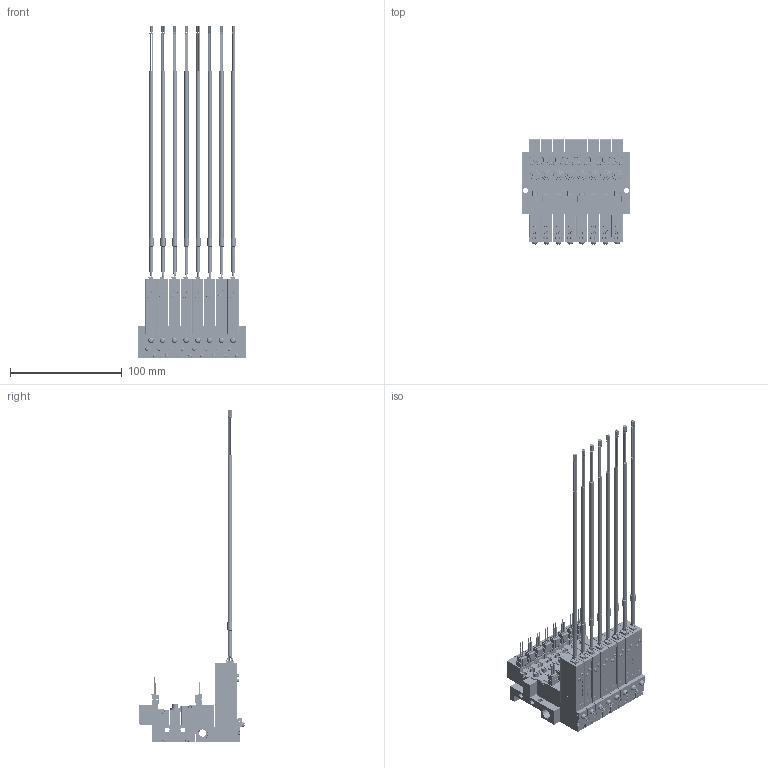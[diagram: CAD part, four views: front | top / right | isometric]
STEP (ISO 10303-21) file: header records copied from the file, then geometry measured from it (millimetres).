
FILE_DESCRIPTION(('STEP AP203'),'1');
FILE_NAME('2-NO(NC)-4EZ-M08-V9.stp','2025-05-09T00:56:22',(' '),(' '),'Spatial InterOp 3D',' ',' ');
FILE_SCHEMA(('CONFIG_CONTROL_DESIGN'));
Length unit declared in the file: millimetre
Products named in the file (234): PV1※2-NO(NC)-4EZ-M08-V9; BODY; PLATE; NEEDLE; BOLT; SOLENOID VALVE VOLTAGE PV; 42; 45; 48; 51; BRAKET(MPS-V9  PV용)NEW; BRAKET; MPS-V9AC.ics; __1; MPS-V9AC; MSBR-29_1; MSBR-28_1; MSBR-27_1; MSBR-26_1; MSBR-25_1; MSBR-24_1; MSBR-21_1; MSBR-7_1; MSBR-4_1; MSBR-1_1; SOLENOID VALVE VOLTAGE PV-NC2
Assembly tree (233 placements, depth 5):
  PV1※2-NO(NC)-4EZ-M08-V9
    BODY
    PLATE
    PLATE
    NEEDLE
    BOLT
    BOLT
    BOLT
    BOLT
    BOLT
    BOLT
    SOLENOID VALVE VOLTAGE PV
      42
      45
      48
      51
    NEEDLE
    SOLENOID VALVE VOLTAGE PV
      42
      45
      48
      51
    NEEDLE
    SOLENOID VALVE VOLTAGE PV
      42
      45
      48
      51
    PLATE
    BOLT
    BOLT
    BOLT
    PLATE
    BOLT
    BOLT
    BOLT
    NEEDLE
    SOLENOID VALVE VOLTAGE PV
      42
      45
      48
      51
    NEEDLE
    SOLENOID VALVE VOLTAGE PV
      42
      45
      48
      51
    PLATE
    BOLT
    BOLT
    BOLT
    SOLENOID VALVE VOLTAGE PV
      42
      45
      48
      51
    NEEDLE
    PLATE
    BOLT
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Bounding box: 97.5 x 94.29 x 297.25 mm (x, y, z)
Volume: 222379.2 mm3; surface area: 191787.7 mm2
Topology: 193 solids, 265 shells, 9793 faces, 26622 edges, 17921 vertices
Faces by surface type: plane 7640, cylinder 1647, torus 184, bspline 120, cone 90, extrusion 80, sphere 32
Full cylindrical faces by diameter (mm): 1.4 x16, 2 x24, 2.3 x16, 2.5 x8, 3 x56, 3.5 x8, 4.2 x18, 4.5 x2, 5 x16, 6.5 x1, 8.797 x2, 9 x8
Entity records: 321402 total; most frequent: CARTESIAN_POINT 61831, ORIENTED_EDGE 51464, DIRECTION 49810, EDGE_CURVE 26036, VECTOR 20300, LINE 20220, VERTEX_POINT 17720, AXIS2_PLACEMENT_3D 14755
